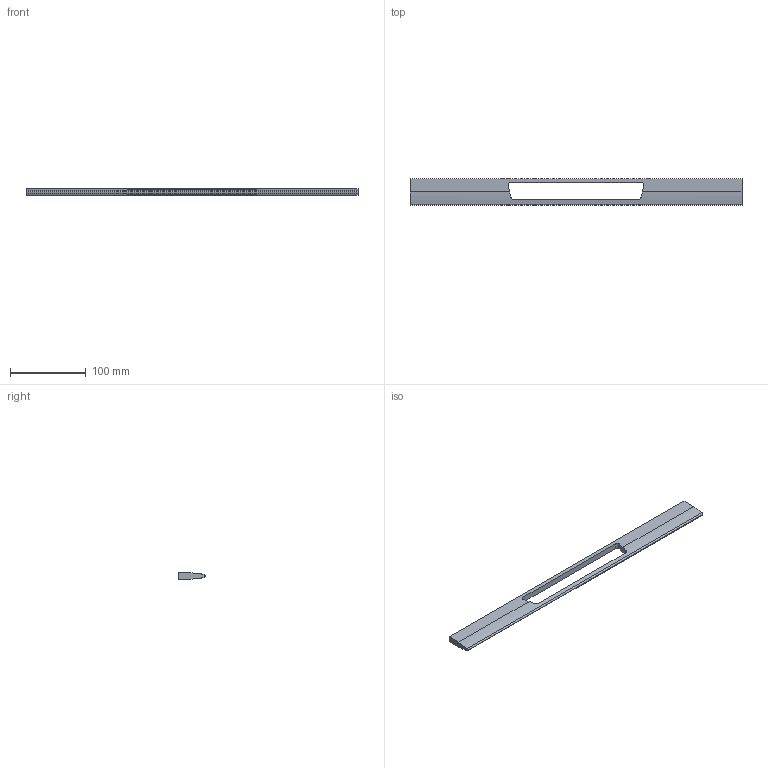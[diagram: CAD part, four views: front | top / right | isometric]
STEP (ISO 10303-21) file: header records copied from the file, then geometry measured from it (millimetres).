
FILE_DESCRIPTION( ( '' ), '1' );
FILE_NAME( 'D:/1.AUTOCAD EXPORT/Group 10/sheet_10_1/9105840.stp', '2013-10-18T05:21:50', ( '' ), ( '' ), ' ', ' ', ' ' );
FILE_SCHEMA( ( 'automotive_design' ) );
Length unit declared in the file: millimetre
Products named in the file (1): 1
Bounding box: 437 x 35 x 8 mm (x, y, z)
Volume: 76788.6 mm3; surface area: 30605.3 mm2
Topology: 1 solids, 1 shells, 23 faces, 63 edges, 42 vertices
Faces by surface type: cylinder 12, plane 11
Entity records: 1530 total; most frequent: CARTESIAN_POINT 189, DIRECTION 131, STYLED_ITEM 129, PRESENTATION_STYLE_ASSIGNMENT 129, COLOUR_RGB 129, ORIENTED_EDGE 126, EDGE_CURVE 63, CURVE_STYLE 63
